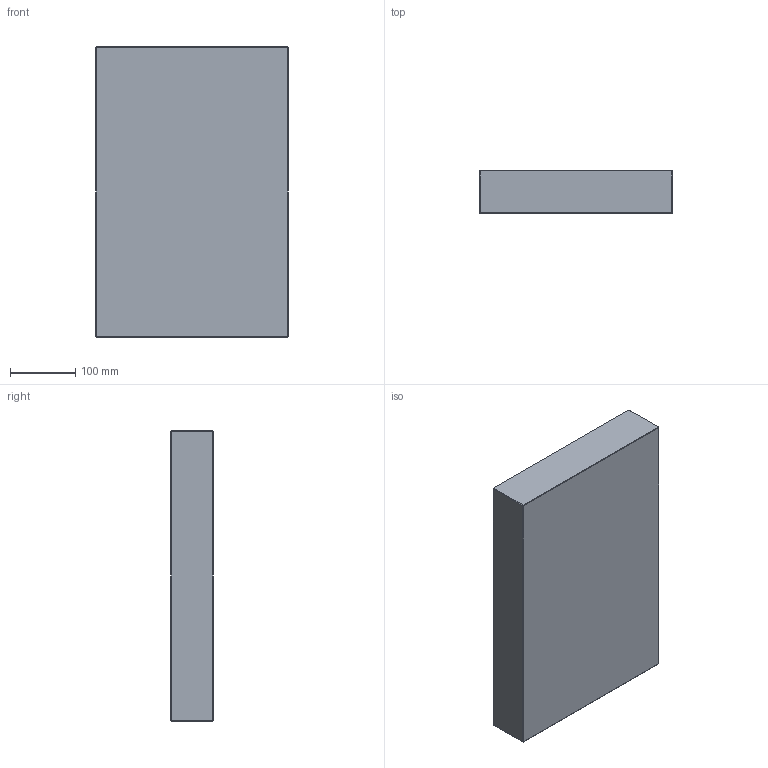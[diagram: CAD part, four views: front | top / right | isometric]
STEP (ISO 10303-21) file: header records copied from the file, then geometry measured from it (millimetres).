
FILE_DESCRIPTION (( 'STEP AP214' ), '1' );
FILE_NAME ('PC-P-296x446x66.STEP', '2020-04-01T09:54:02', ( 'August' ), ( '' ), 'SwSTEP 2.0', 'SolidWorks 2018', '' );
FILE_SCHEMA (( 'AUTOMOTIVE_DESIGN' ));
Length unit declared in the file: millimetre
Products named in the file (1): PC-P-296x446x66
Bounding box: 296 x 66 x 446 mm (x, y, z)
Volume: 8711445.3 mm3; surface area: 360079.7 mm2
Topology: 1 solids, 1 shells, 26 faces, 48 edges, 24 vertices
Faces by surface type: plane 26
Entity records: 634 total; most frequent: DIRECTION 102, CARTESIAN_POINT 99, ORIENTED_EDGE 96, LINE 48, VECTOR 48, EDGE_CURVE 48, AXIS2_PLACEMENT_3D 27, EDGE_LOOP 26
